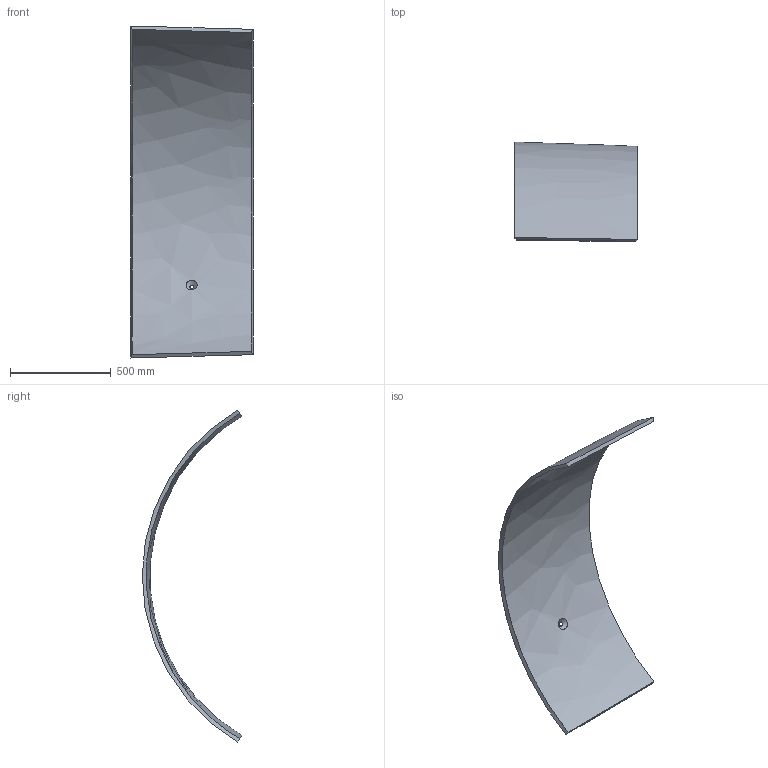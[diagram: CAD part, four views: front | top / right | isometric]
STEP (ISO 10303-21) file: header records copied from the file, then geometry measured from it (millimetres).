
FILE_DESCRIPTION (( 'STEP AP214' ), '1' );
FILE_NAME ('P14.STEP', '2025-01-09T19:43:26', ( '' ), ( '' ), 'SwSTEP 2.0', 'SolidWorks 2024', '' );
FILE_SCHEMA (( 'AUTOMOTIVE_DESIGN' ));
Length unit declared in the file: inch
Products named in the file (1): P14
Bounding box: 606.42 x 493.78 x 1648.14 mm (x, y, z)
Volume: 22539977.9 mm3; surface area: 2439402.1 mm2
Topology: 1 solids, 1 shells, 8 faces, 18 edges, 12 vertices
Faces by surface type: bspline 7, cylinder 1
Full cylindrical faces by diameter (mm): 19.447 x1
Entity records: 2443 total; most frequent: CARTESIAN_POINT 2295, ORIENTED_EDGE 30, EDGE_CURVE 15, B_SPLINE_CURVE_WITH_KNOTS 15, EDGE_LOOP 12, VERTEX_POINT 11, FACE_OUTER_BOUND 10, ADVANCED_FACE 8
